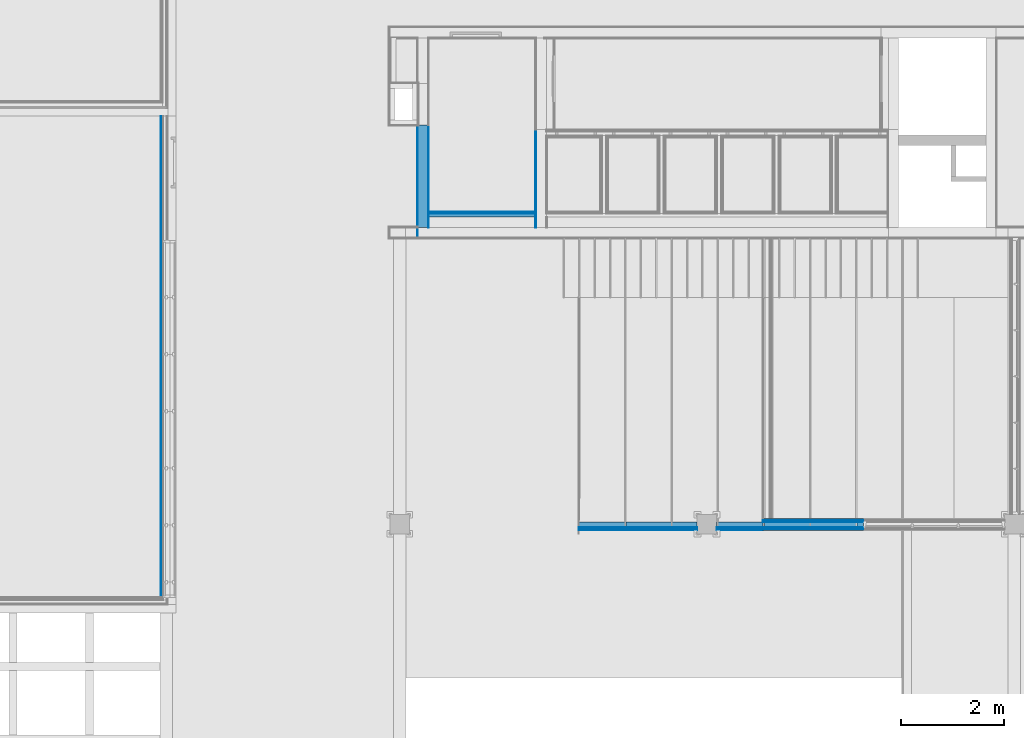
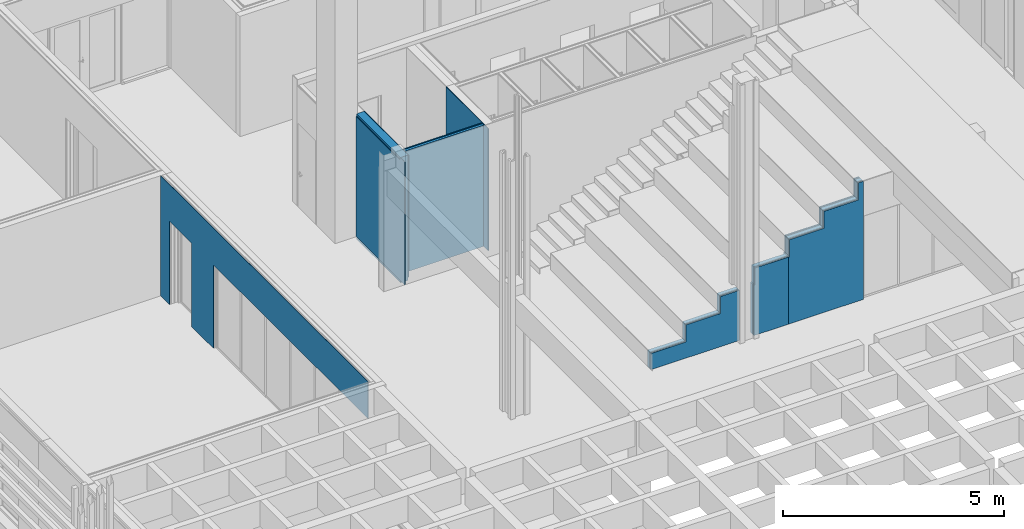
# One storey, part 93 of 139: 23 building element parts, 2 openings, 6 elements without a shape of their own.
"""IFC2X3 building model written with IfcOpenShell, lengths in millimetres."""

from ifc_helpers import new_model, entity, si_unit, converted_unit, derived_unit, money_unit, direction, frame, origin_with_axes, place, context, subcontext, project, spatial, faceted_brep, material, type_object, element, aggregate, save


model = new_model("IFC2X3")

# Units and contexts
model_context = context("Model", 3, precision=0.01, world=origin_with_axes(), true_north=direction((0.0, 1.0)))
body_context = subcontext(model_context, "Body", "Model", "MODEL_VIEW")
ifc_project = project(units=[si_unit("LENGTHUNIT", "METRE", prefix="MILLI"), si_unit("AREAUNIT", "SQUARE_METRE"), si_unit("VOLUMEUNIT", "CUBIC_METRE"), converted_unit("PLANEANGLEUNIT", "DEGREE", entity("IfcPlaneAngleMeasure", 0.0174532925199), si_unit("PLANEANGLEUNIT", "RADIAN"), dimensions=[0, 0, 0, 0, 0, 0, 0]), money_unit("EUR"), converted_unit("TIMEUNIT", "Year", entity("IfcTimeMeasure", 31556926.0), si_unit("TIMEUNIT", "SECOND"), dimensions=[0, 0, 1, 0, 0, 0, 0]), si_unit("MASSUNIT", "GRAM", prefix="KILO"), si_unit("THERMODYNAMICTEMPERATUREUNIT", "DEGREE_CELSIUS"), si_unit("LUMINOUSINTENSITYUNIT", "LUMEN"), si_unit("ENERGYUNIT", "JOULE", prefix="MEGA"), derived_unit("THERMALCONDUCTANCEUNIT", [(si_unit("POWERUNIT", "WATT"), 1), (si_unit("LENGTHUNIT", "METRE"), -1), (si_unit("THERMODYNAMICTEMPERATUREUNIT", "KELVIN"), -1)]), derived_unit("SPECIFICHEATCAPACITYUNIT", [(si_unit("ENERGYUNIT", "JOULE"), 1), (si_unit("MASSUNIT", "GRAM", prefix="KILO"), -1), (si_unit("THERMODYNAMICTEMPERATUREUNIT", "KELVIN"), -1)]), derived_unit("MASSDENSITYUNIT", [(si_unit("MASSUNIT", "GRAM", prefix="KILO"), 1), (si_unit("VOLUMEUNIT", "CUBIC_METRE"), -1)])], contexts=[model_context])

# Site, building, storey
site_placement = place(None, origin_with_axes())
site = spatial("IfcSite", under=ifc_project, at=site_placement, Name="Kolde pst 67a", CompositionType="ELEMENT")
building_placement = place(site_placement, origin_with_axes())
building = spatial("IfcBuilding", under=site, at=building_placement, Name="Riigigümnaasium", CompositionType="ELEMENT")
storey_placement = place(building_placement, frame((0.0, 0.0, 4600.0), z_axis=(0.0, 0.0, 1.0), x_axis=(1.0, 0.0, 0.0)))
storey = spatial("IfcBuildingStorey", under=building, at=storey_placement, Name="2. korrus", CompositionType="ELEMENT", Elevation=4600.0)

# Wall, openings, building element part
wall_type_1 = type_object("IfcWallType", Name="SS-CLT-16/1_vill75+krohv 52 dB 300", PredefinedType="NOTDEFINED")
wall_1_placement = place(storey_placement, frame((31890.0027331, 48039.9808308, -130.0), z_axis=(0.0, 0.0, 1.0), x_axis=(0.0, -1.0, 0.0)))
wall_1 = element("IfcWall", 1, at=wall_1_placement, inside=storey, type_object=wall_type_1, Name="Sisesein")
opening_1_placement = place(wall_1_placement, frame((5885.00000614, 0.0, 130.0), z_axis=(0.0, 0.0, 1.0), x_axis=(1.0, 0.0, 0.0)))
element("IfcOpeningElement", 2, at=opening_1_placement, cuts=wall_1, Name="Ava", context=body_context, shape_type="Brep", body=[
    faceted_brep([(3495.00000046, 600.0, 0.0), (3495.00000046, 600.0, 2300.0), (3495.00000046, -300.0, 2300.0), (3495.00000046, -300.0, 0.0), (-3495.00000046, 600.0, 0.0), (-3495.00000046, 600.0, 2300.0), (-3495.00000046, -300.0, 2300.0), (-3495.00000046, -300.0, 0.0)], [[[0, 1, 2, 3]], [[0, 4, 5, 1]], [[1, 5, 6, 2]], [[3, 2, 6, 7]], [[4, 0, 3, 7]], [[5, 4, 7, 6]]]),
])
opening_2_placement = place(wall_1_placement, frame((900.0, 0.0, 130.0), z_axis=(0.0, 0.0, 1.0), x_axis=(1.0, 0.0, 0.0)))
element("IfcOpeningElement", 3, at=opening_2_placement, cuts=wall_1, Name="Siseuks", context=body_context, shape_type="Brep", body=[
    faceted_brep([(-500.0, 600.0, 2300.0), (-500.0, 600.0, 0.0), (-500.0, -300.0, 0.0), (-500.0, -300.0, 2300.0), (500.0, 600.0, 2300.0), (500.0, 600.0, 0.0), (500.0, -300.0, 0.0), (500.0, -300.0, 2300.0)], [[[0, 1, 2, 3]], [[0, 4, 5, 1]], [[1, 5, 6, 2]], [[3, 2, 6, 7]], [[4, 0, 3, 7]], [[5, 4, 7, 6]]]),
])
ifc_material_1 = material(Name="_VIIMISTLUSKIHT - viimistlus vastavalt SA osale")
building_element_part_1_placement = place(wall_1_placement, origin_with_axes())
building_element_part_1 = element("IfcBuildingElementPart", 4, at=building_element_part_1_placement, material=ifc_material_1, Name="_VIIMISTLUSKIHT - viimistlus vastavalt SA osale", context=body_context, shape_type="Brep", body=[
    faceted_brep([(1400.0, -290.0, 130.0), (1400.0, -290.0, 2430.0), (400.0, -290.0, 2430.0), (400.0, -290.0, 130.0), (0.0, -290.0, 130.0), (0.0, -290.0, 3450.0), (9380.00000661, -290.0, 3450.0), (9380.0000066, -290.0, 2430.0), (2390.00000568, -290.0, 2430.0), (2390.00000568, -290.0, 130.0), (1400.0, -300.0, 130.0), (1400.0, -300.0, 2430.0), (400.0, -300.0, 2430.0), (400.0, -300.0, 130.0), (0.0, -300.0, 130.0), (0.0, -300.0, 3450.0), (9380.0000066, -300.0, 3450.0), (9380.0000066, -300.0, 2430.0), (2390.00000568, -300.0, 2430.0), (2390.00000568, -300.0, 130.0)], [[[0, 1, 2, 3, 4, 5, 6, 7, 8, 9]], [[1, 0, 10, 11]], [[2, 1, 11, 12]], [[3, 2, 12, 13]], [[3, 13, 14, 4]], [[4, 14, 15, 5]], [[15, 16, 6, 5]], [[7, 6, 16, 17]], [[7, 17, 18, 8]], [[8, 18, 19, 9]], [[10, 0, 9, 19]], [[11, 10, 19, 18, 17, 16, 15, 14, 13, 12]]]),
])
aggregate(wall_1, [building_element_part_1])

# Wall, building element parts
wall_type_2 = type_object("IfcWallType", Name="SS-RB-20/2_+2 plaat 230", PredefinedType="NOTDEFINED")
wall_2_placement = place(storey_placement, frame((36804.99923, 45669.9999598, -80.0), z_axis=(0.0, 0.0, 1.0), x_axis=(0.0, 1.0, 0.0)))
wall_2 = element("IfcWall", 5, at=wall_2_placement, inside=storey, type_object=wall_type_2, Name="Sisesein")
building_element_part_2_placement = place(wall_2_placement, origin_with_axes())
building_element_part_2 = element("IfcBuildingElementPart", 6, at=building_element_part_2_placement, material=ifc_material_1, Name="_VIIMISTLUSKIHT - viimistlus vastavalt SA osale", context=body_context, shape_type="Brep", body=[
    faceted_brep([(2195.00037372, 215.0, 3400.0), (2195.00037372, 200.0, 3400.0), (2195.00037372, 200.0, 80.0), (2195.00037372, 215.0, 80.0), (200.0, 200.0, 3400.0), (200.000002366, 215.0, 3400.0), (200.0, 200.0, 3470.0), (-15.0000084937, 200.0, 3470.0), (-15.0000001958, 200.0, 80.0), (0.0, 200.0, 80.0), (-15.0000001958, 215.0, 80.0), (-15.0000084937, 215.0, 3470.0), (200.000002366, 215.0, 3470.0)], [[[0, 1, 2, 3]], [[4, 1, 0, 5]], [[4, 6, 7, 8, 9, 2, 1]], [[3, 2, 9, 8, 10]], [[5, 0, 3, 10, 11, 12]], [[12, 6, 4, 5]], [[6, 12, 11, 7]], [[10, 8, 7, 11]]]),
])
ifc_material_2 = material(Name="_KANDETARIND - monteeritav raudbetoon vastavalt EK osale")
building_element_part_3_placement = place(wall_2_placement, origin_with_axes())
building_element_part_3 = element("IfcBuildingElementPart", 7, at=building_element_part_3_placement, material=ifc_material_2, Name="_KANDETARIND - monteeritav raudbetoon vastavalt EK osale", context=body_context, shape_type="Brep", body=[
    faceted_brep([(2195.00037575, 200.0, 3460.0), (2195.00037575, 0.0, 3460.0), (2195.00037575, 0.0, 0.0), (2195.00037575, 200.0, 0.0), (200.0, 0.0, 3460.0), (200.0, 200.0, 3460.0), (200.0, 0.0, 0.0), (200.0, 200.0, 0.0), (200.0, 200.0, 80.0)], [[[0, 1, 2, 3]], [[4, 1, 0, 5]], [[1, 4, 6, 2]], [[2, 6, 7, 3]], [[5, 0, 3, 7, 8]], [[4, 5, 8, 7, 6]]]),
])
building_element_part_4_placement = place(wall_2_placement, origin_with_axes())
building_element_part_4 = element("IfcBuildingElementPart", 8, at=building_element_part_4_placement, material=ifc_material_1, Name="_VIIMISTLUSKIHT - viimistlus vastavalt SA osale", context=body_context, shape_type="Brep", body=[
    faceted_brep([(2195.00037575, 0.0, 3460.0), (2195.00037575, -15.0, 3460.0), (2195.00037575, -15.0, 80.0), (2195.00037575, 0.0, 80.0), (200.0, -15.0, 3460.0), (200.0, 0.0, 3460.0), (200.0, -15.0, 80.0), (404.000036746, -15.0, 80.0), (404.000036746, -15.0, 3430.0), (495.000036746, -15.0, 3430.0), (495.000036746, -15.0, 80.0), (495.000036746, 0.0, 80.0), (495.000036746, 0.0, 3430.0), (404.000036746, 0.0, 3430.0), (404.000036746, 0.0, 80.0), (200.0, 0.0, 80.0)], [[[0, 1, 2, 3]], [[4, 1, 0, 5]], [[1, 4, 6, 7, 8, 9, 10, 2]], [[3, 2, 10, 11]], [[5, 0, 3, 11, 12, 13, 14, 15]], [[4, 5, 15, 6]], [[14, 7, 6, 15]], [[7, 14, 13, 8]], [[13, 12, 9, 8]], [[11, 10, 9, 12]]]),
])
aggregate(wall_2, [building_element_part_2, building_element_part_3, building_element_part_4])

wall_type_3 = type_object("IfcWallType", Name="SS-MK-66/3_šahti sein+plaat 106", PredefinedType="NOTDEFINED")
wall_3_placement = place(storey_placement, frame((36804.99923, 46179.9999966, 0.0), z_axis=(0.0, 0.0, 1.0), x_axis=(1.0, 0.0, 0.0)))
wall_3 = element("IfcWall", 9, at=wall_3_placement, inside=storey, type_object=wall_type_3, Name="Varisein")
building_element_part_5_placement = place(wall_3_placement, origin_with_axes())
building_element_part_5 = element("IfcBuildingElementPart", 10, at=building_element_part_5_placement, material=ifc_material_1, Name="_VIIMISTLUSKIHT - viimistlus vastavalt SA osale", context=body_context, shape_type="Brep", body=[
    faceted_brep([(15.0, -15.0, 3350.0), (2089.83128133, -15.0, 3350.0), (2089.83128133, 0.0, 3350.0), (15.0, 0.0, 3350.0), (15.0, -15.0, 0.0), (2089.83128133, -15.0, 0.0), (2089.83128133, 0.0, 0.0), (15.0, 0.0, 0.0)], [[[0, 1, 2, 3]], [[4, 5, 1, 0]], [[5, 6, 2, 1]], [[3, 2, 6, 7]], [[4, 0, 3, 7]], [[7, 6, 5, 4]]]),
])
ifc_material_3 = material(Name="_PLAATMATERJAL - kipsplaat veekindel")
building_element_part_6_placement = place(wall_3_placement, origin_with_axes())
building_element_part_6 = element("IfcBuildingElementPart", 11, at=building_element_part_6_placement, material=ifc_material_3, Name="_PLAATMATERJAL - kipsplaat veekindel", context=body_context, shape_type="Brep", body=[
    faceted_brep([(0.0, -27.5, 3350.0), (2104.83128133, -27.5, 3350.0), (2104.83128133, -15.0, 3350.0), (0.0, -15.0, 3350.0), (0.0, -27.5, 0.0), (2104.83128133, -27.5, 0.0), (2104.83128133, -15.0, 0.0), (0.0, -15.0, 0.0)], [[[0, 1, 2, 3]], [[4, 5, 1, 0]], [[5, 6, 2, 1]], [[3, 2, 6, 7]], [[4, 0, 3, 7]], [[7, 6, 5, 4]]]),
])
building_element_part_7_placement = place(wall_3_placement, origin_with_axes())
building_element_part_7 = element("IfcBuildingElementPart", 12, at=building_element_part_7_placement, material=ifc_material_3, Name="_PLAATMATERJAL - kipsplaat veekindel", context=body_context, shape_type="Brep", body=[
    faceted_brep([(0.0, -40.0, 3350.0), (2104.83128133, -40.0, 3350.0), (2104.83128133, -27.5, 3350.0), (0.0, -27.5, 3350.0), (0.0, -40.0, 0.0), (2104.83128133, -40.0, 0.0), (2104.83128133, -27.5, 0.0), (0.0, -27.5, 0.0)], [[[0, 1, 2, 3]], [[4, 5, 1, 0]], [[5, 6, 2, 1]], [[3, 2, 6, 7]], [[4, 0, 3, 7]], [[7, 6, 5, 4]]]),
])
ifc_material_4 = material(Name="_KARKASS - metallkarkass CW 75/50, mineraalvill karkassi vahel")
building_element_part_8_placement = place(wall_3_placement, origin_with_axes())
building_element_part_8 = element("IfcBuildingElementPart", 13, at=building_element_part_8_placement, material=ifc_material_4, Name="_KARKASS - metallkarkass CW 75/50, mineraalvill karkassi vahel", context=body_context, shape_type="Brep", body=[
    faceted_brep([(0.0, -106.0, 3350.0), (2104.83128133, -106.0, 3350.0), (2104.83128133, -40.0, 3350.0), (0.0, -40.0, 3350.0), (0.0, -106.0, 0.0), (2104.83128133, -106.0, 0.0), (2104.83128133, -40.0, 0.0), (0.0, -40.0, 0.0)], [[[0, 1, 2, 3]], [[4, 5, 1, 0]], [[5, 6, 2, 1]], [[3, 2, 6, 7]], [[4, 0, 3, 7]], [[7, 6, 5, 4]]]),
])
aggregate(wall_3, [building_element_part_5, building_element_part_6, building_element_part_7, building_element_part_8])

wall_type_4 = type_object("IfcWallType", Name="SS-MK-10/4_šahti sein+dold  160", PredefinedType="NOTDEFINED")
wall_4_placement = place(storey_placement, frame((43329.4992509, 39969.9999177, 0.0), z_axis=(0.0, 0.0, 1.0), x_axis=(-1.0, -1.25267424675e-10, 0.0)))
wall_4 = element("IfcWall", 14, at=wall_4_placement, inside=storey, type_object=wall_type_4, Name="Sisesein")
ifc_material_5 = material(Name="_VIIMISTLUSKIHT - Dold plaat vastavalt SA osale")
building_element_part_9_placement = place(wall_4_placement, origin_with_axes())
building_element_part_9 = element("IfcBuildingElementPart", 15, at=building_element_part_9_placement, material=ifc_material_5, Name="_VIIMISTLUSKIHT - Dold plaat vastavalt SA osale", context=body_context, shape_type="Brep", body=[
    faceted_brep([(1279.50002086, -1.07312558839e-06, 1386.25), (1279.50002086, -20.0000001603, 1386.25), (1769.50002072, -20.0000002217, 1386.25), (1769.50002073, -1.13450937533e-06, 1386.25), (1279.50002086, -20.0000001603, 0.0), (1279.50002086, -1.60170543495e-07, 0.0), (3587.5529988, -20.0000004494, 0.0), (3587.5529988, -20.0000004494, 448.75), (2669.50002045, -20.0000003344, 448.75), (2669.50002045, -20.0000003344, 917.5), (1769.50002072, -20.0000002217, 917.5), (1769.50002073, -1.13450937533e-06, 917.5), (2669.50002045, -1.24724408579e-06, 917.5), (2669.50002045, -1.24724408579e-06, 448.75), (3588.01112178, 0.0, 448.75), (3588.01112177, -4.49169590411e-07, 0.0)], [[[0, 1, 2, 3]], [[4, 1, 0, 5]], [[1, 4, 6, 7, 8, 9, 10, 2]], [[3, 2, 10, 11]], [[5, 0, 3, 11, 12, 13, 14, 15]], [[4, 5, 15, 6]], [[14, 7, 6, 15]], [[13, 8, 7, 14]], [[12, 9, 8, 13]], [[11, 10, 9, 12]]]),
    faceted_brep([(899.500020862, -20.0000001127, 0.0), (899.500020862, -20.0000001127, 1386.25), (869.500020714, -20.0000001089, 1386.25), (869.500020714, -20.0000001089, 1855.0), (1.73727698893e-08, -19.9999996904, 1855.0), (-2.50821585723e-09, -20.0, 0.0), (899.500020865, -1.02552633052e-06, 1386.25), (899.500020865, -1.12606812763e-07, 0.0), (869.500020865, -1.02176755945e-06, 1386.25), (869.500020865, -1.02176755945e-06, 1855.0), (1.83817405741e-08, -8.83538575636e-07, 1855.0), (0.0, 0.0, 1689.50715738), (0.0, 0.0, 0.0)], [[[0, 1, 2, 3, 4, 5]], [[6, 1, 0, 7]], [[1, 6, 8, 2]], [[9, 3, 2, 8]], [[9, 10, 4, 3]], [[5, 4, 10, 11, 12]], [[7, 0, 5, 12]], [[6, 7, 12, 11, 10, 9, 8]]]),
])
ifc_material_6 = material(Name="_KARKASS - eriprofiilkinnitus vastavalt sisemisele plaatviimistlusele")
building_element_part_10_placement = place(wall_4_placement, origin_with_axes())
building_element_part_10 = element("IfcBuildingElementPart", 16, at=building_element_part_10_placement, material=ifc_material_6, Name="_KARKASS - eriprofiilkinnitus vastavalt sisemisele plaatviimistlusele", context=body_context, shape_type="Brep", body=[
    faceted_brep([(1279.50002086, -20.0000001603, 1386.25), (1279.50002086, -30.0000001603, 1386.25), (1769.50002072, -30.0000002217, 1386.25), (1769.50002072, -20.0000002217, 1386.25), (1279.50002086, -30.0000001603, 0.0), (1279.50002086, -20.0000001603, 0.0), (3587.32393732, -30.0000004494, 0.0), (3587.32393732, -30.0000004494, 448.75), (2669.50002044, -30.0000003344, 448.75), (2669.50002044, -30.0000003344, 917.5), (1769.50002072, -30.0000002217, 917.5), (1769.50002072, -20.0000002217, 917.5), (2669.50002045, -20.0000003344, 917.5), (2669.50002045, -20.0000003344, 448.75), (3587.5529988, -20.0000004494, 448.75), (3587.5529988, -20.0000004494, 0.0)], [[[0, 1, 2, 3]], [[4, 1, 0, 5]], [[1, 4, 6, 7, 8, 9, 10, 2]], [[3, 2, 10, 11]], [[5, 0, 3, 11, 12, 13, 14, 15]], [[4, 5, 15, 6]], [[14, 7, 6, 15]], [[13, 8, 7, 14]], [[12, 9, 8, 13]], [[11, 10, 9, 12]]]),
    faceted_brep([(899.500020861, -30.0000001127, 0.0), (899.500020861, -30.0000001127, 1386.25), (869.500020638, -30.0000001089, 1386.25), (869.500020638, -30.0000001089, 1855.0), (1.61222146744e-08, -30.0000010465, 1855.0), (-3.75877107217e-09, -30.0, 0.0), (899.500020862, -20.0000001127, 1386.25), (899.500020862, -20.0000001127, 0.0), (869.500020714, -20.0000001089, 1386.25), (869.500020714, -20.0000001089, 1855.0), (1.73727698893e-08, -19.9999996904, 1855.0), (-2.50821585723e-09, -20.0, 0.0)], [[[0, 1, 2, 3, 4, 5]], [[6, 1, 0, 7]], [[1, 6, 8, 2]], [[9, 3, 2, 8]], [[9, 10, 4, 3]], [[5, 4, 10, 11]], [[7, 0, 5, 11]], [[6, 7, 11, 10, 9, 8]]]),
])
ifc_material_7 = material(Name="_PLAATMATERJAL - tuletõkkekipsplaat, Knauf Red GKF või samaväärne")
building_element_part_11_placement = place(wall_4_placement, origin_with_axes())
building_element_part_11 = element("IfcBuildingElementPart", 17, at=building_element_part_11_placement, material=ifc_material_7, Name="_PLAATMATERJAL - tuletõkkekipsplaat, Knauf Red GKF või samaväärne", context=body_context, shape_type="Brep", body=[
    faceted_brep([(1279.50002086, -30.0000001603, 1386.25), (1279.50002086, -45.0000001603, 1386.25), (1769.50002072, -45.0000002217, 1386.25), (1769.50002072, -30.0000002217, 1386.25), (1279.50002086, -45.0000001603, 0.0), (1279.50002086, -30.0000001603, 0.0), (3586.98034509, -45.0000004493, 0.0), (3586.98034509, -45.0000004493, 448.75), (2669.50002044, -45.0000003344, 448.75), (2669.50002044, -45.0000003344, 917.5), (1769.50002072, -45.0000002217, 917.5), (1769.50002072, -30.0000002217, 917.5), (2669.50002044, -30.0000003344, 917.5), (2669.50002044, -30.0000003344, 448.75), (3587.32393732, -30.0000004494, 448.75), (3587.32393732, -30.0000004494, 0.0)], [[[0, 1, 2, 3]], [[4, 1, 0, 5]], [[1, 4, 6, 7, 8, 9, 10, 2]], [[3, 2, 10, 11]], [[5, 0, 3, 11, 12, 13, 14, 15]], [[4, 5, 15, 6]], [[14, 7, 6, 15]], [[13, 8, 7, 14]], [[12, 9, 8, 13]], [[11, 10, 9, 12]]]),
    faceted_brep([(899.500020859, -45.0000001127, 0.0), (899.500020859, -45.0000001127, 1386.25), (869.500020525, -45.0000001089, 1386.25), (869.500020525, -45.0000001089, 1855.0), (1.4246381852e-08, -45.0, 1855.0), (-5.63460389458e-09, -45.0, 0.0), (899.500020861, -30.0000001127, 1386.25), (899.500020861, -30.0000001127, 0.0), (869.500020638, -30.0000001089, 1386.25), (869.500020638, -30.0000001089, 1855.0), (1.61222146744e-08, -30.0000010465, 1855.0), (-3.75877107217e-09, -30.0, 0.0)], [[[0, 1, 2, 3, 4, 5]], [[6, 1, 0, 7]], [[1, 6, 8, 2]], [[9, 3, 2, 8]], [[9, 10, 4, 3]], [[5, 4, 10, 11]], [[7, 0, 5, 11]], [[6, 7, 11, 10, 9, 8]]]),
])
building_element_part_12_placement = place(wall_4_placement, origin_with_axes())
building_element_part_12 = element("IfcBuildingElementPart", 18, at=building_element_part_12_placement, material=ifc_material_7, Name="_PLAATMATERJAL - tuletõkkekipsplaat, Knauf Red GKF või samaväärne", context=body_context, shape_type="Brep", body=[
    faceted_brep([(1279.50002086, -45.0000001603, 1386.25), (1279.50002086, -60.000009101, 1386.25), (1769.50002072, -60.0000091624, 1386.25), (1769.50002072, -45.0000002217, 1386.25), (1279.50002086, -60.0000001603, 0.0), (1279.50002086, -45.0000001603, 0.0), (3586.63675287, -60.0000004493, 0.0), (3586.63675266, -60.00000939, 448.75), (2669.50002044, -60.0000092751, 448.75), (2669.50002044, -60.0000092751, 917.5), (1769.50002072, -60.0000091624, 917.5), (1769.50002072, -45.0000002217, 917.5), (2669.50002044, -45.0000003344, 917.5), (2669.50002044, -45.0000003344, 448.75), (3586.98034509, -45.0000004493, 448.75), (3586.98034509, -45.0000004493, 0.0)], [[[0, 1, 2, 3]], [[4, 1, 0, 5]], [[1, 4, 6, 7, 8, 9, 10, 2]], [[3, 2, 10, 11]], [[5, 0, 3, 11, 12, 13, 14, 15]], [[4, 5, 15, 6]], [[14, 7, 6, 15]], [[13, 8, 7, 14]], [[12, 9, 8, 13]], [[11, 10, 9, 12]]]),
    faceted_brep([(899.500020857, -60.0000001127, 0.0), (899.500020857, -60.0000090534, 1386.25), (869.500020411, -60.0000090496, 1386.25), (869.500020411, -60.0000090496, 1855.0), (1.25268684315e-08, -59.999999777, 1855.0), (1.25268684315e-08, -59.999999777, 1689.50715738), (-20.0000000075, -60.0000089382, 1689.50715738), (-20.0000000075, -59.9999999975, 0.0), (899.500020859, -45.0000001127, 1386.25), (899.500020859, -45.0000001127, 0.0), (869.500020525, -45.0000001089, 1386.25), (869.500020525, -45.0000001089, 1855.0), (1.44098066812e-08, -45.0, 1855.0), (1.44098066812e-08, -45.0, 1689.50715738), (-20.0000000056, -44.9999999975, 1689.50715738), (-20.0000000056, -44.9999999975, 0.0)], [[[0, 1, 2, 3, 4, 5, 6, 7]], [[8, 1, 0, 9]], [[1, 8, 10, 2]], [[11, 3, 2, 10]], [[11, 12, 4, 3]], [[5, 4, 12, 13]], [[5, 13, 14, 6]], [[14, 15, 7, 6]], [[9, 0, 7, 15]], [[8, 9, 15, 14, 13, 12, 11, 10]]]),
])
ifc_material_8 = material(Name="_KARKASS - metallkarkass CW 100/50/06 ja UW 100/40/06, samm 600, vahel mineraalvill, helineeldetegur αw = 1.0,  ISOVER ACOUSTIC 100mm või samaväärne")
building_element_part_13_placement = place(wall_4_placement, origin_with_axes())
building_element_part_13 = element("IfcBuildingElementPart", 19, at=building_element_part_13_placement, material=ifc_material_8, Name="_KARKASS - metallkarkass CW 100/50/06 ja UW 100/40/06, samm 600, vahel mineraalvill, helineeldetegur αw = 1.0,  ISOVER ACOUSTIC 100mm või samaväärne", context=body_context, shape_type="Brep", body=[
    faceted_brep([(1279.50002086, -60.0000001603, 1386.25), (1279.50002084, -159.999997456, 1386.25), (1769.50002071, -159.999997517, 1386.25), (1769.50002072, -60.0000002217, 1386.25), (1279.50002084, -160.00000016, 0.0), (1279.50002086, -60.0000001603, 0.0), (3584.34613803, -160.000000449, 0.0), (3584.34613809, -159.999997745, 448.75), (2669.50002043, -159.99999763, 448.75), (2669.50002043, -159.99999763, 917.5), (1769.50002071, -159.999997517, 917.5), (1769.50002072, -60.0000002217, 917.5), (2669.50002044, -60.0000003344, 917.5), (2669.50002044, -60.0000003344, 448.75), (3586.63675287, -60.0000004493, 448.75), (3586.63675287, -60.0000004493, 0.0)], [[[0, 1, 2, 3]], [[4, 1, 0, 5]], [[1, 4, 6, 7, 8, 9, 10, 2]], [[3, 2, 10, 11]], [[5, 0, 3, 11, 12, 13, 14, 15]], [[4, 5, 15, 6]], [[14, 7, 6, 15]], [[13, 8, 7, 14]], [[12, 9, 8, 13]], [[11, 10, 9, 12]]]),
    faceted_brep([(899.500020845, -160.000000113, 0.0), (899.500020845, -159.999997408, 1386.25), (869.500019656, -159.999997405, 1386.25), (869.500019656, -159.999997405, 1855.0), (0.0, -160.0, 1855.0), (0.0, -160.0, 1689.50715738), (-35.00000002, -159.999997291, 1689.50715738), (-35.00000002, -159.999999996, 0.0), (899.500020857, -60.0000001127, 1386.25), (899.500020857, -60.0000001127, 0.0), (869.500020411, -60.0000001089, 1386.25), (869.500020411, -60.0000001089, 1855.0), (1.25268684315e-08, -59.999999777, 1855.0), (1.25268684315e-08, -59.999999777, 1689.50715738), (-35.0000000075, -59.9999999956, 1689.50715738), (-35.0000000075, -59.9999999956, 0.0)], [[[0, 1, 2, 3, 4, 5, 6, 7]], [[8, 1, 0, 9]], [[1, 8, 10, 2]], [[11, 3, 2, 10]], [[11, 12, 4, 3]], [[5, 4, 12, 13]], [[5, 13, 14, 6]], [[14, 15, 7, 6]], [[9, 0, 7, 15]], [[8, 9, 15, 14, 13, 12, 11, 10]]]),
])
aggregate(wall_4, [building_element_part_9, building_element_part_10, building_element_part_11, building_element_part_12, building_element_part_13])

# Wall, building element part
wall_5_placement = place(storey_placement, frame((39109.8305113, 45669.9999598, -80.0), z_axis=(0.0, 0.0, 1.0), x_axis=(0.0, 1.0, 0.0)))
wall_5 = element("IfcWall", 20, at=wall_5_placement, inside=storey, type_object=wall_type_2, Name="Sisesein")
building_element_part_14_placement = place(wall_5_placement, origin_with_axes())
building_element_part_14 = element("IfcBuildingElementPart", 21, at=building_element_part_14_placement, material=ifc_material_1, Name="_VIIMISTLUSKIHT - viimistlus vastavalt SA osale", context=body_context, shape_type="Brep", body=[
    faceted_brep([(2108.50000096, 215.0, 3460.0), (2108.50000096, 200.0, 3460.0), (2108.50000096, 200.0, 80.0), (2108.50000096, 215.0, 80.0), (200.0, 200.0, 3460.0), (200.0, 215.0, 3460.0), (200.0, 200.0, 80.0), (404.000036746, 200.0, 80.0), (404.000036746, 200.0, 3430.0), (495.000036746, 200.0, 3430.0), (495.000036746, 200.0, 80.0), (495.000036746, 215.0, 80.0), (495.000036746, 215.0, 3430.0), (404.000036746, 215.0, 3430.0), (404.000036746, 215.0, 80.0), (200.0, 215.0, 80.0)], [[[0, 1, 2, 3]], [[4, 1, 0, 5]], [[1, 4, 6, 7, 8, 9, 10, 2]], [[3, 2, 10, 11]], [[5, 0, 3, 11, 12, 13, 14, 15]], [[4, 5, 15, 6]], [[14, 7, 6, 15]], [[7, 14, 13, 8]], [[12, 9, 8, 13]], [[11, 10, 9, 12]]]),
])
aggregate(wall_5, [building_element_part_14])

# Wall, building element parts
wall_type_5 = type_object("IfcWallType", Name="SS-PK-10/1_vill100+2dold 220", PredefinedType="NOTDEFINED")
wall_6_placement = place(storey_placement, frame((45289.9854607, 39969.9999177, 0.0), z_axis=(0.0, 0.0, 1.0), x_axis=(-1.0, 0.0, 0.0)))
wall_6 = element("IfcWall", 22, at=wall_6_placement, inside=storey, type_object=wall_type_5, Name="Sisesein")
building_element_part_15_placement = place(wall_6_placement, origin_with_axes())
building_element_part_15 = element("IfcBuildingElementPart", 23, at=building_element_part_15_placement, material=ifc_material_5, Name="_VIIMISTLUSKIHT - Dold plaat vastavalt SA osale", context=body_context, shape_type="Brep", body=[
    faceted_brep([(129.986230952, -20.0, 2792.5), (129.986230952, -20.0, 3261.25), (0.0, -20.0, 3261.25), (0.0, -20.0, 0.0), (1960.48620982, -20.0, 0.0), (1960.48620982, -20.0000055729, 1855.0), (1929.98623082, -20.0, 1855.0), (1929.98623082, -20.0, 2323.75), (1029.98623082, -20.0, 2323.75), (1029.98623082, -20.0, 2792.5), (129.9862311, -9.12848463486e-07, 2792.5), (129.9862311, -9.12848463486e-07, 3261.25), (0.0, -1.48486378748e-06, 3261.25), (0.0, 0.0, 0.0), (1960.48620982, 0.0, 0.0), (1960.48620982, -8.83538575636e-07, 1855.0), (1960.48620982, 0.0, 1689.50715738), (1929.98623082, -9.12848463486e-07, 1855.0), (1929.98623082, -9.12848463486e-07, 2323.75), (1029.98623096, -9.12848463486e-07, 2323.75), (1029.98623096, -9.12848463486e-07, 2792.5)], [[[0, 1, 2, 3, 4, 5, 6, 7, 8, 9]], [[1, 0, 10, 11]], [[12, 2, 1, 11]], [[2, 12, 13, 3]], [[3, 13, 14, 4]], [[15, 5, 4, 14, 16]], [[6, 5, 15, 17]], [[7, 6, 17, 18]], [[8, 7, 18, 19]], [[9, 8, 19, 20]], [[0, 9, 20, 10]], [[17, 15, 16, 14, 13, 12, 11, 10, 20, 19, 18]]]),
])
building_element_part_16_placement = place(wall_6_placement, origin_with_axes())
building_element_part_16 = element("IfcBuildingElementPart", 24, at=building_element_part_16_placement, material=ifc_material_6, Name="_KARKASS - eriprofiilkinnitus vastavalt sisemisele plaatviimistlusele", context=body_context, shape_type="Brep", body=[
    faceted_brep([(129.986230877, -30.0, 2792.5), (129.986230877, -30.0, 3261.25), (0.0, -30.0, 3261.25), (0.0, -30.0, 0.0), (1960.48620982, -30.0, 0.0), (1960.48620982, -30.0000018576, 1855.0), (1929.98623082, -30.0, 1855.0), (1929.98623082, -30.0, 2323.75), (1029.98623074, -30.0, 2323.75), (1029.98623074, -30.0, 2792.5), (129.986230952, -20.0, 2792.5), (129.986230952, -20.0, 3261.25), (0.0, -20.0, 3261.25), (0.0, -20.0, 0.0), (1960.48620982, -20.0, 0.0), (1960.48620982, -20.0000055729, 1855.0), (1929.98623082, -20.0, 1855.0), (1929.98623082, -20.0, 2323.75), (1029.98623082, -20.0, 2323.75), (1029.98623082, -20.0, 2792.5)], [[[0, 1, 2, 3, 4, 5, 6, 7, 8, 9]], [[1, 0, 10, 11]], [[12, 2, 1, 11]], [[2, 12, 13, 3]], [[3, 13, 14, 4]], [[15, 5, 4, 14]], [[6, 5, 15, 16]], [[7, 6, 16, 17]], [[8, 7, 17, 18]], [[9, 8, 18, 19]], [[0, 9, 19, 10]], [[16, 15, 14, 13, 12, 11, 10, 19, 18, 17]]]),
])
building_element_part_17_placement = place(wall_6_placement, origin_with_axes())
building_element_part_17 = element("IfcBuildingElementPart", 25, at=building_element_part_17_placement, material=ifc_material_7, Name="_PLAATMATERJAL - tuletõkkekipsplaat, Knauf Red GKF või samaväärne", context=body_context, shape_type="Brep", body=[
    faceted_brep([(129.986230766, -45.0, 2792.5), (129.986230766, -45.0, 3261.25), (0.0, -45.0, 3261.25), (0.0, -45.0, 0.0), (1960.48620982, -45.0, 0.0), (1960.48620982, -45.0, 1855.0), (1929.98623082, -45.0, 1855.0), (1929.98623082, -45.0, 2323.75), (1029.98623063, -45.0, 2323.75), (1029.98623063, -45.0, 2792.5), (129.986230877, -30.0, 2792.5), (129.986230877, -30.0, 3261.25), (0.0, -30.0, 3261.25), (0.0, -30.0, 0.0), (1960.48620982, -30.0, 0.0), (1960.48620982, -30.0000018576, 1855.0), (1929.98623082, -30.0, 1855.0), (1929.98623082, -30.0, 2323.75), (1029.98623074, -30.0, 2323.75), (1029.98623074, -30.0, 2792.5)], [[[0, 1, 2, 3, 4, 5, 6, 7, 8, 9]], [[1, 0, 10, 11]], [[12, 2, 1, 11]], [[2, 12, 13, 3]], [[3, 13, 14, 4]], [[15, 5, 4, 14]], [[6, 5, 15, 16]], [[7, 6, 16, 17]], [[8, 7, 17, 18]], [[9, 8, 18, 19]], [[0, 9, 19, 10]], [[16, 15, 14, 13, 12, 11, 10, 19, 18, 17]]]),
])
building_element_part_18_placement = place(wall_6_placement, origin_with_axes())
building_element_part_18 = element("IfcBuildingElementPart", 26, at=building_element_part_18_placement, material=ifc_material_7, Name="_PLAATMATERJAL - tuletõkkekipsplaat, Knauf Red GKF või samaväärne", context=body_context, shape_type="Brep", body=[
    faceted_brep([(129.986230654, -60.0000089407, 2792.5), (129.986230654, -60.0000089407, 3261.25), (0.0, -60.0, 3261.25), (0.0, -60.0, 0.0), (1940.48620982, -60.0, 0.0), (1940.48620982, -60.0000089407, 1689.50715738), (1960.48620982, -60.0000040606, 1689.50715738), (1960.48620982, -60.0000044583, 1855.0), (1929.98623082, -60.0000089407, 1855.0), (1929.98623082, -60.0000089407, 2323.75), (1029.98623053, -60.0000089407, 2323.75), (1029.98623053, -60.0000089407, 2792.5), (129.986230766, -45.0, 2792.5), (129.986230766, -45.0, 3261.25), (0.0, -45.0, 3261.25), (0.0, -45.0, 0.0), (1940.48620982, -45.0, 0.0), (1940.48620982, -45.0, 1689.50715738), (1960.48620982, -45.0, 1689.50715738), (1960.48620982, -45.0, 1855.0), (1929.98623082, -45.0, 1855.0), (1929.98623082, -45.0, 2323.75), (1029.98623063, -45.0, 2323.75), (1029.98623063, -45.0, 2792.5)], [[[0, 1, 2, 3, 4, 5, 6, 7, 8, 9, 10, 11]], [[1, 0, 12, 13]], [[14, 2, 1, 13]], [[2, 14, 15, 3]], [[15, 16, 4, 3]], [[17, 5, 4, 16]], [[6, 5, 17, 18]], [[19, 7, 6, 18]], [[8, 7, 19, 20]], [[9, 8, 20, 21]], [[10, 9, 21, 22]], [[11, 10, 22, 23]], [[0, 11, 23, 12]], [[20, 19, 18, 17, 16, 15, 14, 13, 12, 23, 22, 21]]]),
])
ifc_material_9 = material(Name="_KARKASS - puitpruss 100x50mm vertikaalne, samm 600mm, vahel mineraalvill, helineeldetegur αw = 1.0, ISOVER ACOUSTIC 100mm või samaväärne")
building_element_part_19_placement = place(wall_6_placement, origin_with_axes())
building_element_part_19 = element("IfcBuildingElementPart", 27, at=building_element_part_19_placement, material=ifc_material_9, Name="_KARKASS - puitpruss 100x50mm vertikaalne, samm 600mm, vahel mineraalvill, helineeldetegur αw = 1.0, ISOVER ACOUSTIC 100mm või samaväärne", context=body_context, shape_type="Brep", body=[
    faceted_brep([(129.986229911, -159.999989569, 2792.5), (129.986229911, -159.999989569, 3261.25), (0.0, -160.0, 3261.25), (0.0, -160.0, 0.0), (1825.48620982, -160.0, 0.0), (1825.48620982, -159.999989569, 1689.50715738), (1960.48620982, -159.999995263, 1689.50715738), (1960.48620982, -159.999994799, 1855.0), (1929.98623082, -159.999989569, 1855.0), (1929.98623082, -159.999989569, 2323.75), (1029.9862298, -159.999989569, 2323.75), (1029.9862298, -159.999989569, 2792.5), (129.986230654, -60.0, 2792.5), (129.986230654, -60.0, 3261.25), (0.0, -60.0, 3261.25), (0.0, -60.0, 0.0), (1825.48620982, -60.0, 0.0), (1825.48620982, -60.0, 1689.50715738), (1960.48620982, -60.0000040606, 1689.50715738), (1960.48620982, -60.0000044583, 1855.0), (1929.98623082, -60.0, 1855.0), (1929.98623082, -60.0, 2323.75), (1029.98623053, -60.0, 2323.75), (1029.98623053, -60.0, 2792.5)], [[[0, 1, 2, 3, 4, 5, 6, 7, 8, 9, 10, 11]], [[1, 0, 12, 13]], [[14, 2, 1, 13]], [[2, 14, 15, 3]], [[15, 16, 4, 3]], [[17, 5, 4, 16]], [[6, 5, 17, 18]], [[19, 7, 6, 18]], [[8, 7, 19, 20]], [[9, 8, 20, 21]], [[10, 9, 21, 22]], [[11, 10, 22, 23]], [[0, 11, 23, 12]], [[20, 19, 18, 17, 16, 15, 14, 13, 12, 23, 22, 21]]]),
])
building_element_part_20_placement = place(wall_6_placement, origin_with_axes())
building_element_part_20 = element("IfcBuildingElementPart", 28, at=building_element_part_20_placement, material=ifc_material_7, Name="_PLAATMATERJAL - tuletõkkekipsplaat, Knauf Red GKF või samaväärne", context=body_context, shape_type="Brep", body=[
    faceted_brep([(129.9862298, -175.0, 2792.5), (129.9862298, -175.0, 3261.25), (0.0, -175.0, 3261.25), (0.0, -175.0, 0.0), (1825.48620982, -175.0, 0.0), (1825.48620982, -175.0, 1689.50715738), (1960.48620982, -175.0, 1689.50715738), (1960.48620982, -175.0, 1855.0), (1929.98623082, -175.0, 1855.0), (1929.98623082, -175.0, 2323.75), (1029.98622969, -175.0, 2323.75), (1029.98622969, -175.0, 2792.5), (129.986229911, -159.999989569, 2792.5), (129.986229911, -159.999989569, 3261.25), (0.0, -160.0, 3261.25), (0.0, -160.0, 0.0), (1825.48620982, -160.0, 0.0), (1825.48620982, -159.999989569, 1689.50715738), (1960.48620982, -159.999995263, 1689.50715738), (1960.48620982, -159.999994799, 1855.0), (1929.98623082, -159.999989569, 1855.0), (1929.98623082, -159.999989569, 2323.75), (1029.9862298, -159.999989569, 2323.75), (1029.9862298, -159.999989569, 2792.5)], [[[0, 1, 2, 3, 4, 5, 6, 7, 8, 9, 10, 11]], [[1, 0, 12, 13]], [[14, 2, 1, 13]], [[2, 14, 15, 3]], [[15, 16, 4, 3]], [[17, 5, 4, 16]], [[6, 5, 17, 18]], [[19, 7, 6, 18]], [[8, 7, 19, 20]], [[9, 8, 20, 21]], [[10, 9, 21, 22]], [[11, 10, 22, 23]], [[0, 11, 23, 12]], [[20, 19, 18, 17, 16, 15, 14, 13, 12, 23, 22, 21]]]),
])
building_element_part_21_placement = place(wall_6_placement, origin_with_axes())
building_element_part_21 = element("IfcBuildingElementPart", 29, at=building_element_part_21_placement, material=ifc_material_7, Name="_PLAATMATERJAL - tuletõkkekipsplaat, Knauf Red GKF või samaväärne", context=body_context, shape_type="Brep", body=[
    faceted_brep([(129.986229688, -189.999994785, 2792.5), (129.986229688, -189.999994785, 3261.25), (0.0, -190.0, 3261.25), (0.0, -190.0, 0.0), (1825.48620982, -190.0, 0.0), (1825.48620982, -189.999994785, 1689.50715738), (1960.48620982, -189.999997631, 1689.50715738), (1960.48620982, -189.999997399, 1855.0), (1929.98623082, -189.999994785, 1855.0), (1929.98623082, -189.999994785, 2323.75), (1029.98622958, -189.999994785, 2323.75), (1029.98622958, -189.999994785, 2792.5), (129.9862298, -175.0, 2792.5), (129.9862298, -175.0, 3261.25), (0.0, -175.0, 3261.25), (0.0, -175.0, 0.0), (1825.48620982, -175.0, 0.0), (1825.48620982, -175.0, 1689.50715738), (1960.48620982, -175.0, 1689.50715738), (1960.48620982, -175.0, 1855.0), (1929.98623082, -175.0, 1855.0), (1929.98623082, -175.0, 2323.75), (1029.98622969, -175.0, 2323.75), (1029.98622969, -175.0, 2792.5)], [[[0, 1, 2, 3, 4, 5, 6, 7, 8, 9, 10, 11]], [[1, 0, 12, 13]], [[14, 2, 1, 13]], [[2, 14, 15, 3]], [[15, 16, 4, 3]], [[17, 5, 4, 16]], [[6, 5, 17, 18]], [[19, 7, 6, 18]], [[8, 7, 19, 20]], [[9, 8, 20, 21]], [[10, 9, 21, 22]], [[11, 10, 22, 23]], [[0, 11, 23, 12]], [[20, 19, 18, 17, 16, 15, 14, 13, 12, 23, 22, 21]]]),
])
building_element_part_22_placement = place(wall_6_placement, origin_with_axes())
building_element_part_22 = element("IfcBuildingElementPart", 30, at=building_element_part_22_placement, material=ifc_material_6, Name="_KARKASS - eriprofiilkinnitus vastavalt sisemisele plaatviimistlusele", context=body_context, shape_type="Brep", body=[
    faceted_brep([(129.986229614, -199.999987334, 2792.5), (129.986229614, -199.999987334, 3261.25), (0.0, -200.0, 3261.25), (0.0, -200.0, 0.0), (1825.48620982, -200.0, 0.0), (1825.48620982, -199.999987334, 1689.50715738), (1960.48620982, -199.999994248, 1689.50715738), (1960.48620982, -199.999993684, 1855.0), (1929.98623082, -199.999987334, 1855.0), (1929.98623082, -199.999987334, 2323.75), (1029.98622951, -199.999987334, 2323.75), (1029.98622951, -199.999987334, 2792.5), (129.986229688, -189.999994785, 2792.5), (129.986229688, -189.999994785, 3261.25), (0.0, -190.0, 3261.25), (0.0, -190.0, 0.0), (1825.48620982, -190.0, 0.0), (1825.48620982, -189.999994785, 1689.50715738), (1960.48620982, -189.999997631, 1689.50715738), (1960.48620982, -189.999997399, 1855.0), (1929.98623082, -189.999994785, 1855.0), (1929.98623082, -189.999994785, 2323.75), (1029.98622958, -189.999994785, 2323.75), (1029.98622958, -189.999994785, 2792.5)], [[[0, 1, 2, 3, 4, 5, 6, 7, 8, 9, 10, 11]], [[1, 0, 12, 13]], [[14, 2, 1, 13]], [[2, 14, 15, 3]], [[15, 16, 4, 3]], [[17, 5, 4, 16]], [[6, 5, 17, 18]], [[19, 7, 6, 18]], [[8, 7, 19, 20]], [[9, 8, 20, 21]], [[10, 9, 21, 22]], [[11, 10, 22, 23]], [[0, 11, 23, 12]], [[20, 19, 18, 17, 16, 15, 14, 13, 12, 23, 22, 21]]]),
])
building_element_part_23_placement = place(wall_6_placement, origin_with_axes())
building_element_part_23 = element("IfcBuildingElementPart", 31, at=building_element_part_23_placement, material=ifc_material_5, Name="_VIIMISTLUSKIHT - Dold plaat vastavalt SA osale", context=body_context, shape_type="Brep", body=[
    faceted_brep([(129.986229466, -220.0, 2792.5), (129.986229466, -220.0, 3261.25), (0.0, -220.0, 3261.25), (0.0, -220.0, 0.0), (1825.48620982, -220.0, 0.0), (1825.48620982, -220.0, 1689.50715738), (1960.48620982, -220.0, 1689.50715738), (1960.48620982, -220.0, 1855.0), (1929.98623082, -220.0, 1855.0), (1929.98623082, -220.0, 2323.75), (1029.98622937, -220.0, 2323.75), (1029.98622937, -220.0, 2792.5), (129.986229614, -199.999987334, 2792.5), (129.986229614, -199.999987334, 3261.25), (0.0, -200.0, 3261.25), (0.0, -200.0, 0.0), (1825.48620982, -200.0, 0.0), (1825.48620982, -199.999987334, 1689.50715738), (1960.48620982, -199.999994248, 1689.50715738), (1960.48620982, -199.999993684, 1855.0), (1929.98623082, -199.999987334, 1855.0), (1929.98623082, -199.999987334, 2323.75), (1029.98622951, -199.999987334, 2323.75), (1029.98622951, -199.999987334, 2792.5)], [[[0, 1, 2, 3, 4, 5, 6, 7, 8, 9, 10, 11]], [[1, 0, 12, 13]], [[14, 2, 1, 13]], [[2, 14, 15, 3]], [[15, 16, 4, 3]], [[17, 5, 4, 16]], [[6, 5, 17, 18]], [[19, 7, 6, 18]], [[8, 7, 19, 20]], [[9, 8, 20, 21]], [[10, 9, 21, 22]], [[11, 10, 22, 23]], [[0, 11, 23, 12]], [[20, 19, 18, 17, 16, 15, 14, 13, 12, 23, 22, 21]]]),
])
aggregate(wall_6, [building_element_part_15, building_element_part_16, building_element_part_17, building_element_part_18, building_element_part_19, building_element_part_20, building_element_part_21, building_element_part_22, building_element_part_23])

save(model, "model.ifc")
